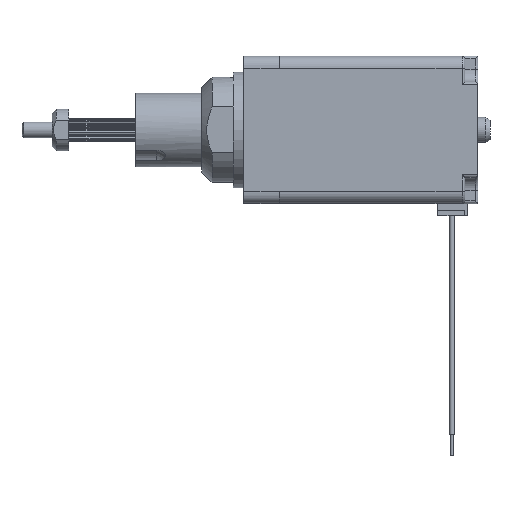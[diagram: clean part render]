
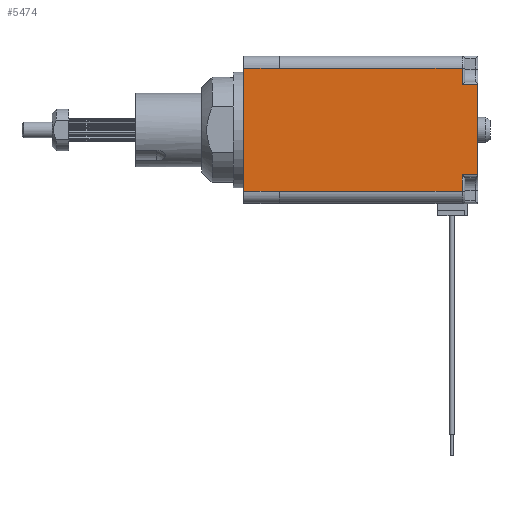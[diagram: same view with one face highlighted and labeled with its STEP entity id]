
A CAD part, top view. The second image highlights one B-rep face of the part: STEP entity #5474.
In plain terms, the highlighted planar face has unit normal (0, 0, 1).
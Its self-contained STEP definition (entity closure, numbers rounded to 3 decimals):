
#510=CARTESIAN_POINT('',(0.,-11.7,14.));
#511=VERTEX_POINT('',#510);
#518=CARTESIAN_POINT('',(0.,11.7,14.));
#519=VERTEX_POINT('',#518);
#520=CARTESIAN_POINT('',(0.,-11.7,14.));
#521=DIRECTION('',(0.,1.,0.));
#522=VECTOR('',#521,23.4);
#523=LINE('',#520,#522);
#524=EDGE_CURVE('',#511,#519,#523,.T.);
#687=CARTESIAN_POINT('',(6.8,11.7,14.));
#688=VERTEX_POINT('',#687);
#689=CARTESIAN_POINT('',(0.,11.7,14.));
#690=DIRECTION('',(1.,0.,0.));
#691=VECTOR('',#690,6.8);
#692=LINE('',#689,#691);
#693=EDGE_CURVE('',#519,#688,#692,.T.);
#728=CARTESIAN_POINT('',(6.8,-11.7,14.));
#729=VERTEX_POINT('',#728);
#736=CARTESIAN_POINT('',(6.8,-11.7,14.));
#737=DIRECTION('',(-1.,0.,0.));
#738=VECTOR('',#737,6.8);
#739=LINE('',#736,#738);
#740=EDGE_CURVE('',#729,#511,#739,.T.);
#1916=CARTESIAN_POINT('',(41.5,-11.7,14.));
#1917=VERTEX_POINT('',#1916);
#1925=CARTESIAN_POINT('',(41.5,-11.7,14.));
#1926=DIRECTION('',(-1.,0.,0.));
#1927=VECTOR('',#1926,34.7);
#1928=LINE('',#1925,#1927);
#1929=EDGE_CURVE('',#1917,#729,#1928,.T.);
#2004=CARTESIAN_POINT('',(41.5,11.7,14.));
#2005=VERTEX_POINT('',#2004);
#2006=CARTESIAN_POINT('',(6.8,11.7,14.));
#2007=DIRECTION('',(1.,0.,0.));
#2008=VECTOR('',#2007,34.7);
#2009=LINE('',#2006,#2008);
#2010=EDGE_CURVE('',#688,#2005,#2009,.T.);
#5214=CARTESIAN_POINT('',(44.5,-8.55,14.));
#5215=VERTEX_POINT('',#5214);
#5323=CARTESIAN_POINT('',(44.5,8.55,14.));
#5324=VERTEX_POINT('',#5323);
#5331=CARTESIAN_POINT('',(44.5,8.55,14.));
#5332=DIRECTION('',(0.,-1.,0.));
#5333=VECTOR('',#5332,17.1);
#5334=LINE('',#5331,#5333);
#5335=EDGE_CURVE('',#5324,#5215,#5334,.T.);
#5433=CARTESIAN_POINT('',(21.75,0.,14.));
#5434=DIRECTION('',(0.,-1.,0.));
#5435=DIRECTION('',(-0.,0.,1.));
#5436=AXIS2_PLACEMENT_3D('',#5433,#5435,#5434);
#5437=PLANE('',#5436);
#5438=CARTESIAN_POINT('',(41.5,-8.55,14.));
#5439=VERTEX_POINT('',#5438);
#5440=CARTESIAN_POINT('',(41.5,-11.7,14.));
#5441=DIRECTION('',(0.,1.,0.));
#5442=VECTOR('',#5441,3.15);
#5443=LINE('',#5440,#5442);
#5444=EDGE_CURVE('',#1917,#5439,#5443,.T.);
#5445=ORIENTED_EDGE('E505',*,*,#5444,.T.);
#5446=CARTESIAN_POINT('',(41.5,-8.55,14.));
#5447=DIRECTION('',(1.,0.,0.));
#5448=VECTOR('',#5447,3.);
#5449=LINE('',#5446,#5448);
#5450=EDGE_CURVE('',#5439,#5215,#5449,.T.);
#5451=ORIENTED_EDGE('E506',*,*,#5450,.T.);
#5452=ORIENTED_EDGE('E506',*,*,#5335,.F.);
#5453=CARTESIAN_POINT('',(41.5,8.55,14.));
#5454=VERTEX_POINT('',#5453);
#5455=CARTESIAN_POINT('',(44.5,8.55,14.));
#5456=DIRECTION('',(-1.,0.,0.));
#5457=VECTOR('',#5456,3.);
#5458=LINE('',#5455,#5457);
#5459=EDGE_CURVE('',#5324,#5454,#5458,.T.);
#5460=ORIENTED_EDGE('E507',*,*,#5459,.T.);
#5461=CARTESIAN_POINT('',(41.5,8.55,14.));
#5462=DIRECTION('',(0.,1.,0.));
#5463=VECTOR('',#5462,3.15);
#5464=LINE('',#5461,#5463);
#5465=EDGE_CURVE('',#5454,#2005,#5464,.T.);
#5466=ORIENTED_EDGE('E508',*,*,#5465,.T.);
#5467=ORIENTED_EDGE('E508',*,*,#2010,.F.);
#5468=ORIENTED_EDGE('E508',*,*,#693,.F.);
#5469=ORIENTED_EDGE('E508',*,*,#524,.F.);
#5470=ORIENTED_EDGE('E508',*,*,#740,.F.);
#5471=ORIENTED_EDGE('E508',*,*,#1929,.F.);
#5472=EDGE_LOOP('',(#5445,#5451,#5452,#5460,#5466,#5467,#5468,#5469,#5470,#5471));
#5473=FACE_OUTER_BOUND('',#5472,.T.);
#5474=ADVANCED_FACE('F147',(#5473),#5437,.T.);
